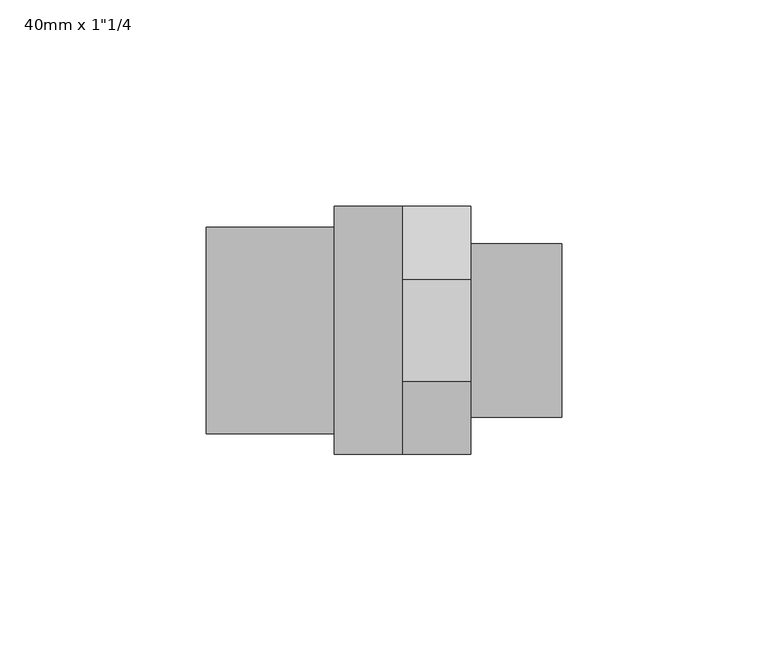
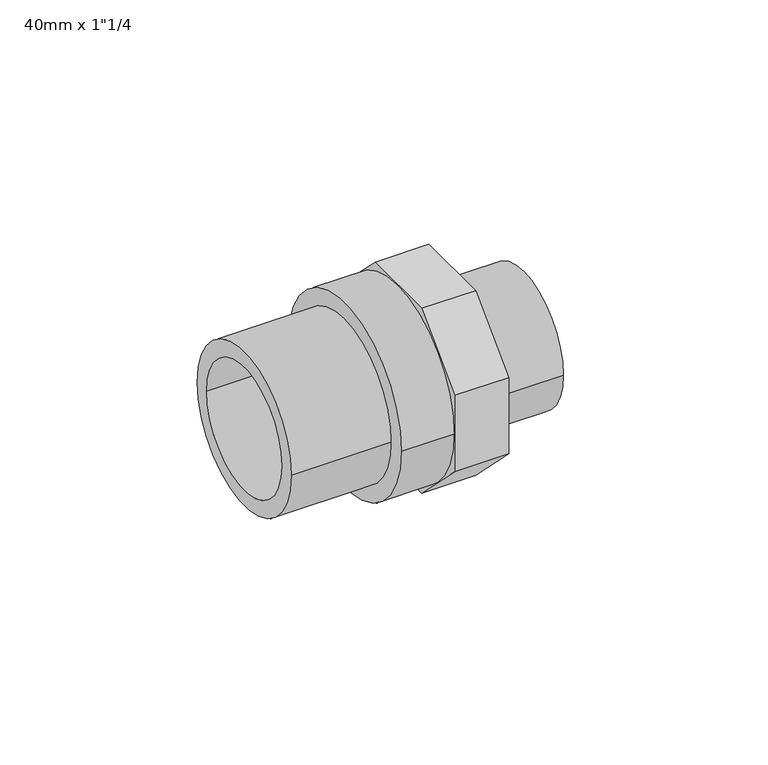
"""IFC4 building model written with IfcOpenShell, lengths in millimetres: pipe fitting geometry."""

from ifc_helpers import new_model, si_unit, point, frame, origin, origin_2d, place, context, project, spatial, polyline, circle_curve, trimmed, segment, composite_curve, outline, extrude, source, transform, mapped, element, save


def pipe_fitting_8dd53835(model_context):
    return source(origin(), model_context, "Body", "SweptSolid", [
        extrude(outline(composite_curve([segment(trimmed(circle_curve(origin_2d(), 21.0), [point((-21.0, 0.0))], [point((21.0, 0.0))], False, "CARTESIAN"), True, "CONTINUOUS"), segment(trimmed(circle_curve(origin_2d(), 21.0), [point((21.0, 0.0))], [point((-21.0, 0.0))], False, "CARTESIAN"), True, "CONTINUOUS")], self_intersect=False), holes=[composite_curve([segment(trimmed(circle_curve(origin_2d(), 16.0), [point((-16.0, 0.0))], [point((16.0, 0.0))], True, "CARTESIAN"), True, "CONTINUOUS"), segment(trimmed(circle_curve(origin_2d(), 16.0), [point((16.0, 0.0))], [point((-16.0, 0.0))], True, "CARTESIAN"), True, "CONTINUOUS")], self_intersect=False)]), frame((21.0, 0.0, 0.0), z_axis=(1.0, 0.0, 0.0), x_axis=(0.0, 1.0, 0.0)), (0.0, 0.0, 1.0), 22.0),
        extrude(outline(polyline([(12.4264069, 30.0), (30.0, 12.4264069), (30.0, -12.4264069), (12.4264069, -30.0), (-12.4264069, -30.0), (-30.0, -12.4264069), (-30.0, 12.4264069), (-12.4264069, 30.0), (12.4264069, 30.0)]), holes=[composite_curve([segment(trimmed(circle_curve(origin_2d(), 16.0), [point((-16.0, 0.0))], [point((16.0, 0.0))], True, "CARTESIAN"), True, "CONTINUOUS"), segment(trimmed(circle_curve(origin_2d(), 16.0), [point((16.0, 0.0))], [point((-16.0, 0.0))], True, "CARTESIAN"), True, "CONTINUOUS")], self_intersect=False)]), frame((4.5, 0.0, 0.0), z_axis=(1.0, 0.0, 0.0), x_axis=(0.0, 1.0, 0.0)), (0.0, 0.0, 1.0), 16.5),
        extrude(outline(composite_curve([segment(trimmed(circle_curve(origin_2d(), 30.0), [point((-30.0, 0.0))], [point((30.0, 0.0))], False, "CARTESIAN"), True, "CONTINUOUS"), segment(trimmed(circle_curve(origin_2d(), 30.0), [point((30.0, 0.0))], [point((-30.0, 0.0))], False, "CARTESIAN"), True, "CONTINUOUS")], self_intersect=False), holes=[composite_curve([segment(trimmed(circle_curve(origin_2d(), 16.0), [point((-16.0, 0.0))], [point((16.0, 0.0))], True, "CARTESIAN"), True, "CONTINUOUS"), segment(trimmed(circle_curve(origin_2d(), 16.0), [point((16.0, 0.0))], [point((-16.0, 0.0))], True, "CARTESIAN"), True, "CONTINUOUS")], self_intersect=False)]), frame((-12.0, 0.0, 0.0), z_axis=(1.0, 0.0, 0.0), x_axis=(0.0, 1.0, 0.0)), (0.0, 0.0, 1.0), 16.5),
        extrude(outline(composite_curve([segment(trimmed(circle_curve(origin_2d(), 25.0), [point((-25.0, 0.0))], [point((25.0, 0.0))], False, "CARTESIAN"), True, "CONTINUOUS"), segment(trimmed(circle_curve(origin_2d(), 25.0), [point((25.0, 0.0))], [point((-25.0, 0.0))], False, "CARTESIAN"), True, "CONTINUOUS")], self_intersect=False), holes=[composite_curve([segment(trimmed(circle_curve(origin_2d(), 20.0), [point((-20.0, 0.0))], [point((20.0, 0.0))], True, "CARTESIAN"), True, "CONTINUOUS"), segment(trimmed(circle_curve(origin_2d(), 20.0), [point((20.0, 0.0))], [point((-20.0, 0.0))], True, "CARTESIAN"), True, "CONTINUOUS")], self_intersect=False)]), frame((-43.0, 0.0, 0.0), z_axis=(1.0, 0.0, 0.0), x_axis=(0.0, 1.0, 0.0)), (0.0, 0.0, 1.0), 31.0),
    ])


if __name__ == "__main__":
    model = new_model("IFC4")
    model_context = context("Model", 3, world=origin())
    ifc_project = project(units=[si_unit("LENGTHUNIT", "METRE", prefix="MILLI")], contexts=[model_context])
    site = spatial("IfcSite", under=ifc_project)
    building = spatial("IfcBuilding", under=site)
    placement = place(None, origin())
    pipe_fitting_shape = pipe_fitting_8dd53835(model_context)
    element("IfcPipeFitting", 1, ObjectType="PipeFitting_HTA_CPVC_AdaptorNipplesA : 40mm x 1\"1/4", at=placement, inside=building, context=model_context, shape_type="MappedRepresentation", body=[
        mapped(pipe_fitting_shape, transform((0.0, 0.0, 0.0), x_axis=(1.0, 0.0, 0.0), y_axis=(0.0, 1.0, 0.0), z_axis=(0.0, 0.0, 1.0))),
    ])
    save(model, "model.ifc")
